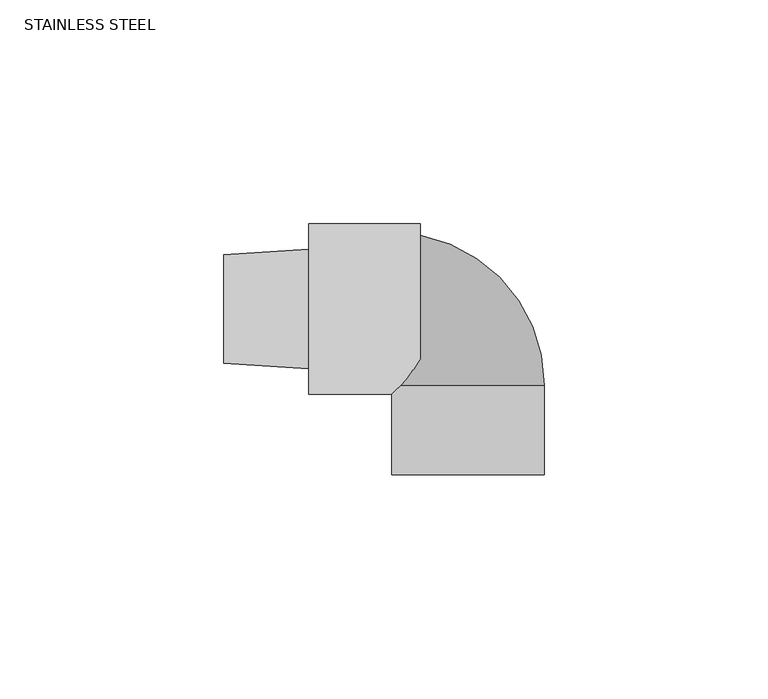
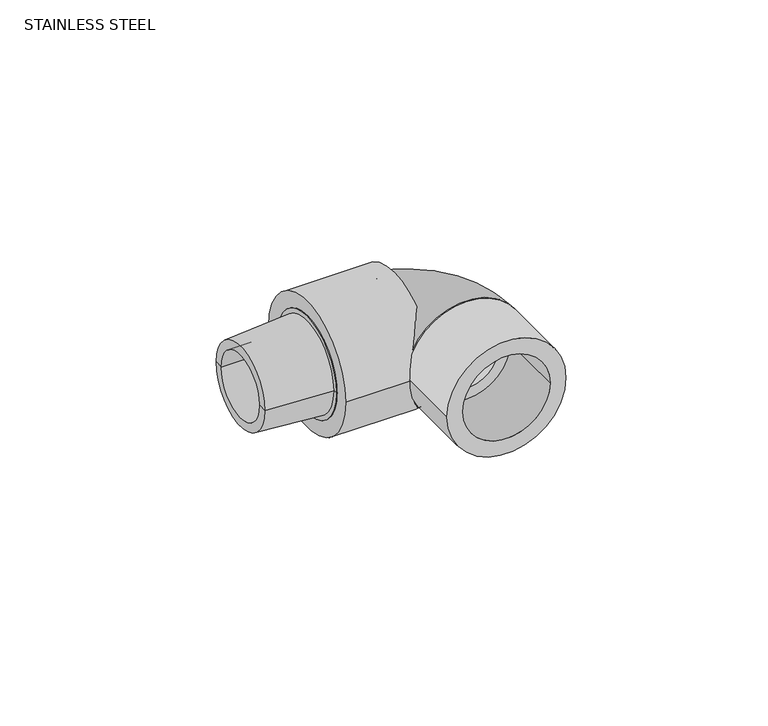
"""IFC4 building model written with IfcOpenShell, lengths in millimetres: valve geometry, Aquatherm - Elbow Transition PPR to M NPT : STAINLESS STEEL."""

import ifcopenshell
import ifcopenshell.guid

model = None  # the IFC model being written
_history = None  # IfcOwnerHistory: only IFC2X3 demands one
_inside = {}  # id of a spatial element -> (the spatial element, [elements in it])
_under = {}  # id of a project, library or spatial element -> (it, [spatial elements below it])
_declared = {}  # id of a project -> (the project, [libraries it declares])
_typed = {}  # id of a type object -> (the type object, [elements of that type])
_made_of = {}  # id of a material, layer set ... -> (it, [elements and type objects made of it])


def new_model(schema):
    """Start an empty IFC model of exactly this schema.

    Asked for "IFC4X3", IfcOpenShell would pick the latest addendum, in which some entities
    have other attributes; the version numbers below select the first issue.
    IFC2X3 requires an IfcOwnerHistory on every rooted entity: one is made here for all.
    """
    global model, _history
    if schema == "IFC4X3":
        model = ifcopenshell.file(schema_version=(4, 3, 0, 0))
    else:
        model = ifcopenshell.file(schema=schema)
    _inside.clear()
    _under.clear()
    _declared.clear()
    _typed.clear()
    _made_of.clear()
    _history = None
    if model.schema == "IFC2X3":
        org = make("IfcOrganization", Name="unknown")
        user = make(
            "IfcPersonAndOrganization",
            ThePerson=make("IfcPerson", FamilyName="unknown"),
            TheOrganization=org,
        )
        app = make(
            "IfcApplication",
            ApplicationDeveloper=org,
            Version="unknown",
            ApplicationFullName="unknown",
            ApplicationIdentifier="unknown",
        )
        _history = make(
            "IfcOwnerHistory",
            OwningUser=user,
            OwningApplication=app,
            ChangeAction="ADDED",
            CreationDate=0,
        )
    return model


def make(cls, **values):
    """One entity of the class cls with the attributes given. An attribute that is None is left unset."""
    return model.create_entity(
        cls, **{name: value for name, value in values.items() if value is not None}
    )


def rooted(cls, **values):
    """An entity with a GlobalId (a new one), such as an element, a storey or a relation."""
    return make(cls, GlobalId=ifcopenshell.guid.new(), OwnerHistory=_history, **values)


def si_unit(unit_type, name, prefix=None):
    """IfcSIUnit, for example si_unit("LENGTHUNIT", "METRE", prefix="MILLI")."""
    return make("IfcSIUnit", UnitType=unit_type, Prefix=prefix, Name=name)


def assignment(units):
    """IfcUnitAssignment: the units of a project."""
    return None if units is None else make("IfcUnitAssignment", Units=units)


def point(xyz):
    """IfcCartesianPoint."""
    return None if xyz is None else make("IfcCartesianPoint", Coordinates=xyz)


def direction(xyz):
    """IfcDirection."""
    return None if xyz is None else make("IfcDirection", DirectionRatios=xyz)


def frame(location, z_axis=None, x_axis=None):
    """IfcAxis2Placement3D, a coordinate frame: its origin and axes. An axis left out is left unset."""
    return make(
        "IfcAxis2Placement3D",
        Location=point(location),
        Axis=direction(z_axis),
        RefDirection=direction(x_axis),
    )


def frame_2d(location, x_axis=None):
    """IfcAxis2Placement2D, a coordinate frame in the plane: its origin and x axis."""
    return make(
        "IfcAxis2Placement2D", Location=point(location), RefDirection=direction(x_axis)
    )


def origin():
    """The frame at (0, 0, 0) with its axes left unset."""
    return frame((0.0, 0.0, 0.0))


def origin_2d():
    """The frame at (0, 0) in the plane with its x axis left unset."""
    return frame_2d((0.0, 0.0))


def place(relative_to, where):
    """IfcLocalPlacement: puts the frame where relative to a parent placement (None: the world)."""
    return make(
        "IfcLocalPlacement", PlacementRelTo=relative_to, RelativePlacement=where
    )


def context(
    kind, dimensions, precision=None, world=None, true_north=None, identifier=None
):
    """IfcGeometricRepresentationContext, for example the 3D "Model" context."""
    return make(
        "IfcGeometricRepresentationContext",
        ContextIdentifier=identifier,
        ContextType=kind,
        CoordinateSpaceDimension=dimensions,
        Precision=precision,
        WorldCoordinateSystem=world,
        TrueNorth=true_north,
    )


def project(units=None, contexts=None):
    """IfcProject with its units and contexts."""
    return rooted(
        "IfcProject",
        Name="project",
        RepresentationContexts=contexts,
        UnitsInContext=assignment(units),
    )


def spatial(cls, under=None, at=None, **own):
    """A site, building, storey or space (cls), placed at a placement, below another one or the project."""
    s = rooted(cls, ObjectPlacement=at, **own)
    if under is not None:
        _under.setdefault(under.id(), (under, []))[1].append(s)
    return s


def polyline(points):
    """IfcPolyline through the points."""
    return make("IfcPolyline", Points=[point(p) for p in points])


def circle_curve(where, radius):
    """IfcCircle in the frame where."""
    return make("IfcCircle", Position=where, Radius=radius)


def ellipse_curve(where, semi_axis1, semi_axis2):
    """IfcEllipse in the frame where."""
    return make(
        "IfcEllipse", Position=where, SemiAxis1=semi_axis1, SemiAxis2=semi_axis2
    )


def trimmed(basis, trim1, trim2, sense, master):
    """IfcTrimmedCurve: the piece of a basis curve between two trims."""
    return make(
        "IfcTrimmedCurve",
        BasisCurve=basis,
        Trim1=trim1,
        Trim2=trim2,
        SenseAgreement=sense,
        MasterRepresentation=master,
    )


def segment(curve, same_sense, transition):
    """IfcCompositeCurveSegment."""
    return make(
        "IfcCompositeCurveSegment",
        Transition=transition,
        SameSense=same_sense,
        ParentCurve=curve,
    )


def composite_curve(segments, self_intersect=None):
    """IfcCompositeCurve: segments joined end to end."""
    return make("IfcCompositeCurve", Segments=segments, SelfIntersect=self_intersect)


def outline(outer, holes=None, kind="AREA"):
    """IfcArbitraryClosedProfileDef: a profile drawn as a closed curve; with holes, ...WithVoids."""
    if holes is None:
        return make("IfcArbitraryClosedProfileDef", ProfileType=kind, OuterCurve=outer)
    return make(
        "IfcArbitraryProfileDefWithVoids",
        ProfileType=kind,
        OuterCurve=outer,
        InnerCurves=holes,
    )


def extrude(swept, where, along, depth):
    """IfcExtrudedAreaSolid: the profile swept, set in the frame where, extruded along a direction by depth."""
    return make(
        "IfcExtrudedAreaSolid",
        SweptArea=swept,
        Position=where,
        ExtrudedDirection=direction(along),
        Depth=depth,
    )


def shape(context_of_items, identifier, shape_type, items):
    """IfcShapeRepresentation: the items that make up one representation, for example the "Body"."""
    return make(
        "IfcShapeRepresentation",
        ContextOfItems=context_of_items,
        RepresentationIdentifier=identifier,
        RepresentationType=shape_type,
        Items=items,
    )


def source(mapping_origin, context_of_items, identifier, shape_type, items):
    """IfcRepresentationMap: a shape defined once, which mapped items show again and again."""
    return make(
        "IfcRepresentationMap",
        MappingOrigin=mapping_origin,
        MappedRepresentation=shape(context_of_items, identifier, shape_type, items),
    )


def transform(
    local_origin,
    x_axis=None,
    y_axis=None,
    z_axis=None,
    scale=None,
    scale2=None,
    scale3=None,
    uniform=True,
):
    """IfcCartesianTransformationOperator3D, or its non-uniform kind. x_axis, y_axis, z_axis: its Axis1, 2, 3."""
    if uniform:
        return make(
            "IfcCartesianTransformationOperator3D",
            Axis1=direction(x_axis),
            Axis2=direction(y_axis),
            LocalOrigin=point(local_origin),
            Scale=scale,
            Axis3=direction(z_axis),
        )
    return make(
        "IfcCartesianTransformationOperator3DnonUniform",
        Axis1=direction(x_axis),
        Axis2=direction(y_axis),
        LocalOrigin=point(local_origin),
        Scale=scale,
        Axis3=direction(z_axis),
        Scale2=scale2,
        Scale3=scale3,
    )


def mapped(mapping_source, mapping_target):
    """IfcMappedItem: shows the shape of a source again, moved by a transform."""
    return make(
        "IfcMappedItem", MappingSource=mapping_source, MappingTarget=mapping_target
    )


def made_of(thing, what):
    """Note that an element or type object is made of a material, layer set ...; save() writes the relation."""
    if what is not None:
        _made_of.setdefault(what.id(), (what, []))[1].append(thing)
    return thing


def element(
    cls,
    number,
    at=None,
    inside=None,
    cuts=None,
    type_object=None,
    material=None,
    context=None,
    identifier="Body",
    shape_type=None,
    held_by="IfcProductDefinitionShape",
    body=None,
    shapes=None,
    **own,
):
    """One element of the class cls, such as IfcWall. Its Tag is "e" and its number.

    at: its placement. inside: the storey or other place that contains it. cuts: it is an
    opening in that element (IfcRelVoidsElement). A single representation is given by context,
    identifier, shape_type and body (its items); several are given by shapes. held_by: the class
    of the entity that holds the representations. save() writes the other relations.
    """
    e = rooted(cls, Tag="e%d" % number, ObjectPlacement=at, **own)
    if body is not None:
        shapes = [shape(context, identifier, shape_type, body)]
    if shapes is not None:
        e.Representation = make(held_by, Representations=shapes)
    if inside is not None:
        _inside.setdefault(inside.id(), (inside, []))[1].append(e)
    if cuts is not None:
        rooted(
            "IfcRelVoidsElement", RelatingBuildingElement=cuts, RelatedOpeningElement=e
        )
    if type_object is not None:
        _typed.setdefault(type_object.id(), (type_object, []))[1].append(e)
    return made_of(e, material)


def aggregate(whole, parts):
    """IfcRelAggregates: a whole, such as a stair, and the parts it consists of."""
    return rooted("IfcRelAggregates", RelatingObject=whole, RelatedObjects=parts)


def save(model, path):
    """Write the relations noted so far, then the file.

    IfcRelAggregates (storeys below a building ...), IfcRelContainedInSpatialStructure (elements
    in a storey), IfcRelDefinesByType, IfcRelAssociatesMaterial and IfcRelDeclares: one each for
    every whole, place, type object, material and project.
    """
    for whole, parts in _under.values():
        aggregate(whole, parts)
    for where, things in _inside.values():
        rooted(
            "IfcRelContainedInSpatialStructure",
            RelatedElements=things,
            RelatingStructure=where,
        )
    for kind, things in _typed.values():
        rooted("IfcRelDefinesByType", RelatedObjects=things, RelatingType=kind)
    for what, things in _made_of.values():
        rooted("IfcRelAssociatesMaterial", RelatedObjects=things, RelatingMaterial=what)
    for by, libraries in _declared.values():
        rooted("IfcRelDeclares", RelatingContext=by, RelatedDefinitions=libraries)
    model.write(path)


def plane_surface(at):
    """IfcPlane: the flat surface through the origin of the frame at, square to its z axis."""
    return make("IfcPlane", Position=at)


def cylinder_surface(at, radius):
    """IfcCylindricalSurface: all points at the distance radius from the z axis of the frame at."""
    return make("IfcCylindricalSurface", Position=at, Radius=radius)


def revolved_surface(curve, axis_point, axis_direction):
    """IfcSurfaceOfRevolution: the curve turned about the line through axis_point along axis_direction."""
    return make(
        "IfcSurfaceOfRevolution",
        SweptCurve=make("IfcArbitraryOpenProfileDef", ProfileType="CURVE", Curve=curve),
        AxisPosition=make("IfcAxis1Placement", Location=point(axis_point), Axis=direction(axis_direction)),
    )


def advanced_brep(points, edges, surfaces, faces):
    """IfcAdvancedBrep: a solid bounded by faces that lie on surfaces and meet in shared edges.

    An edge is (start, end): straight between two places in points (the first is 0);
    or (start, end, curve); or (start, end, curve, False) where it runs against its curve.
    A face is (place in surfaces, loops), or (place, loops, False) where it looks against
    its surface's normal. A loop lists edges by number (the first is 1), with a minus sign
    where the edge is run from its end to its start. The first loop is the outer one.
    """
    corners = [point(p) for p in points]
    vertices = [make("IfcVertexPoint", VertexGeometry=c) for c in corners]
    made = []
    for start, end, *more in edges:
        made.append(
            make(
                "IfcEdgeCurve",
                EdgeStart=vertices[start],
                EdgeEnd=vertices[end],
                EdgeGeometry=more[0] if more else make("IfcPolyline", Points=[corners[start], corners[end]]),
                SameSense=more[1] if len(more) > 1 else True,
            )
        )
    hull = []
    for where, loops, *sense in faces:
        bounds = []
        for j, loop in enumerate(loops):
            ring = [make("IfcOrientedEdge", EdgeElement=made[abs(k) - 1], Orientation=k > 0) for k in loop]
            bounds.append(
                make(
                    "IfcFaceOuterBound" if j == 0 else "IfcFaceBound",
                    Bound=make("IfcEdgeLoop", EdgeList=ring),
                    Orientation=True,
                )
            )
        hull.append(make("IfcAdvancedFace", Bounds=bounds, FaceSurface=surfaces[where], SameSense=sense[0] if sense else True))
    return make("IfcAdvancedBrep", Outer=make("IfcClosedShell", CfsFaces=hull))


def stainless_steel_8619f25a(model_context):
    return source(origin(), model_context, "Body", "SolidModel", [
        advanced_brep(
        [(-16.51, 9.525, 0.0), (-54.61, 9.525, 0.0), (-54.61, -9.525, 0.0), (-16.51, -9.525, 0.0), (-16.51, 14.5851563, 0.0), (-16.51, -14.5851562, 0.0), (-35.56, 14.5851563, 0.0), (-35.56, -14.5851562, 0.0), (-54.61, 12.0943357, 0.0), (-54.61, -12.0943357, 0.0), (-35.56, 13.3100212, 0.0), (-35.56, -13.3100212, 0.0)],
        [
            (0, 1),
            (1, 2, circle_curve(frame((-54.61, 0.0, 0.0), z_axis=(-1.0, 0.0, 0.0), x_axis=(0.0, -1.0, 0.0)), 9.525)),
            (2, 3),
            (3, 0, circle_curve(frame((-16.51, 0.0, 0.0), z_axis=(1.0, 0.0, 0.0), x_axis=(0.0, -1.0, 0.0)), 9.525)),
            (2, 1, circle_curve(frame((-54.61, 0.0, 0.0), z_axis=(-1.0, 0.0, 0.0), x_axis=(0.0, -1.0, 0.0)), 9.525)),
            (0, 3, circle_curve(frame((-16.51, 0.0, 0.0), z_axis=(1.0, 0.0, 0.0), x_axis=(0.0, -1.0, 0.0)), 9.525)),
            (4, 0),
            (3, 5),
            (5, 4, circle_curve(frame((-16.51, 0.0, 0.0), z_axis=(1.0, 0.0, 0.0), x_axis=(0.0, -1.0, 0.0)), 14.5851563)),
            (4, 5, circle_curve(frame((-16.51, 0.0, 0.0), z_axis=(1.0, 0.0, 0.0), x_axis=(0.0, -1.0, 0.0)), 14.5851563)),
            (6, 4),
            (5, 7),
            (7, 6, circle_curve(frame((-35.56, 0.0, 0.0), z_axis=(1.0, 0.0, 0.0), x_axis=(0.0, -1.0, 0.0)), 14.5851563)),
            (6, 7, circle_curve(frame((-35.56, 0.0, 0.0), z_axis=(1.0, 0.0, 0.0), x_axis=(0.0, -1.0, 0.0)), 14.5851563)),
            (1, 8),
            (8, 9, circle_curve(frame((-54.61, 0.0, 0.0), z_axis=(-1.0, 0.0, 0.0), x_axis=(0.0, -1.0, 0.0)), 12.0943357)),
            (9, 2),
            (9, 8, circle_curve(frame((-54.61, 0.0, 0.0), z_axis=(-1.0, 0.0, 0.0), x_axis=(0.0, -1.0, 0.0)), 12.0943357)),
            (10, 6),
            (7, 11),
            (11, 10, circle_curve(frame((-35.56, 0.0, 0.0), z_axis=(1.0, 0.0, 0.0), x_axis=(0.0, -1.0, 0.0)), 13.3100212)),
            (10, 11, circle_curve(frame((-35.56, 0.0, 0.0), z_axis=(1.0, 0.0, 0.0), x_axis=(0.0, -1.0, 0.0)), 13.3100212)),
            (8, 10),
            (11, 9),
        ],
        [
            revolved_surface(polyline([(-54.61, -9.525, 0.0), (-16.509999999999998, -9.525, 0.0)]), (-56.4432251, 0.0, 0.0), (-1.0, 0.0, 0.0)),
            plane_surface(frame((-16.51, 0.0, 0.0), z_axis=(1.0, 0.0, 0.0), x_axis=(0.0, -1.0, 0.0))),
            cylinder_surface(frame((-56.4432251, 0.0, 0.0), z_axis=(-1.0, 0.0, 0.0), x_axis=(0.0, -1.0, 0.0)), 14.5851563),
            plane_surface(frame((-54.61, 0.0, 0.0), z_axis=(-1.0, 0.0, 0.0), x_axis=(0.0, -1.0, 0.0))),
            plane_surface(frame((-35.56, 0.0, 0.0), z_axis=(-1.0, 0.0, 0.0), x_axis=(0.0, -1.0, 0.0))),
            revolved_surface(polyline([(-35.56, -13.3100212, 0.0), (-54.61, -12.0943357, 0.0)]), (-56.4432251, 0.0, 0.0), (-1.0, 0.0, 0.0)),
        ],
        [
            (0, [[1, 2, 3, 4]]),
            (0, [[-3, 5, -1, 6]]),
            (1, [[7, -4, 8, 9]]),
            (1, [[-8, -6, -7, 10]]),
            (2, [[11, -9, 12, 13]]),
            (2, [[-12, -10, -11, 14]]),
            (3, [[15, 16, 17, -2]]),
            (3, [[-17, 18, -15, -5]]),
            (4, [[19, -13, 20, 21]]),
            (4, [[-20, -14, -19, 22]]),
            (5, [[23, -21, 24, -16]]),
            (5, [[-24, -22, -23, -18]]),
        ],
    ),
        advanced_brep(
        [(17.018, -17.018, 0.0), (-17.018, -17.018, 0.0), (9.525, -17.018, 0.0), (-9.525, -17.018, 0.0), (-17.018, 17.018, 0.0), (-17.018, 9.525, 0.0), (-17.018, -9.525, 0.0)],
        [
            (0, 1, circle_curve(frame((0.0, -17.018, 0.0), z_axis=(0.0, -1.0, 0.0), x_axis=(-1.0, 0.0, 0.0)), 17.018)),
            (1, 0, circle_curve(frame((0.0, -17.018, 0.0), z_axis=(0.0, -1.0, 0.0), x_axis=(-1.0, 0.0, 0.0)), 17.018)),
            (2, 3, circle_curve(frame((0.0, -17.018, 0.0), z_axis=(0.0, 1.0, 0.0), x_axis=(-1.0, 0.0, 0.0)), 9.525)),
            (3, 2, circle_curve(frame((0.0, -17.018, 0.0), z_axis=(0.0, 1.0, 0.0), x_axis=(-1.0, 0.0, 0.0)), 9.525)),
            (4, 1, circle_curve(frame((-17.018, 0.0, 0.0), z_axis=(-1.0, 0.0, 0.0), x_axis=(0.0, -1.0, 0.0)), 17.018)),
            (1, 4, circle_curve(frame((-17.018, 0.0, 0.0), z_axis=(-1.0, 0.0, 0.0), x_axis=(0.0, -1.0, 0.0)), 17.018)),
            (5, 6, circle_curve(frame((-17.018, 0.0, 0.0), z_axis=(1.0, 0.0, 0.0), x_axis=(0.0, -1.0, 0.0)), 9.525)),
            (6, 5, circle_curve(frame((-17.018, 0.0, 0.0), z_axis=(1.0, 0.0, 0.0), x_axis=(0.0, -1.0, 0.0)), 9.525)),
            (4, 0, circle_curve(frame((-17.018, -17.018, 0.0), z_axis=(0.0, 0.0, -1.0), x_axis=(1.0, 0.0, 0.0)), 34.036)),
            (5, 2, circle_curve(frame((-17.018, -17.018, 0.0), z_axis=(0.0, 0.0, -1.0), x_axis=(1.0, 0.0, 0.0)), 26.543)),
            (3, 6, circle_curve(frame((-17.018, -17.018, 0.0), z_axis=(0.0, 0.0, 1.0), x_axis=(1.0, 0.0, 0.0)), 7.493)),
        ],
        [
            plane_surface(frame((-17.018, -17.018, 41.9103543), z_axis=(0.0, -1.0, 0.0), x_axis=(1.0, 0.0, 0.0))),
            plane_surface(frame((-17.018, -17.018, 41.9103543), z_axis=(-1.0, 0.0, 0.0), x_axis=(0.0, 1.0, 0.0))),
            revolved_surface(trimmed(ellipse_curve(frame((0.0, -17.018, 0.0), z_axis=(0.0, 1.0, 0.0), x_axis=(-1.0, 0.0, 0.0)), 17.018, 17.018), [point((17.018, -17.018, 0.0))], [point((-17.018, -17.018, 0.0))], True, "CARTESIAN"), (-17.018, -17.018, 41.9103543), (0.0, 0.0, -1.0)),
            revolved_surface(trimmed(ellipse_curve(frame((0.0, -17.018, 0.0), z_axis=(0.0, 1.0, 0.0), x_axis=(-1.0, 0.0, 0.0)), 17.018, 17.018), [point((-17.018, -17.018, 0.0))], [point((17.018, -17.018, 0.0))], True, "CARTESIAN"), (-17.018, -17.018, 41.9103543), (0.0, 0.0, -1.0)),
            revolved_surface(trimmed(ellipse_curve(frame((0.0, -17.018, 0.0), z_axis=(0.0, -1.0, 0.0), x_axis=(-1.0, 0.0, 0.0)), 9.525, 9.525), [point((9.525, -17.018, 0.0))], [point((-9.525, -17.018, 0.0))], True, "CARTESIAN"), (-17.018, -17.018, 41.9103543), (0.0, 0.0, -1.0)),
            revolved_surface(trimmed(ellipse_curve(frame((0.0, -17.018, 0.0), z_axis=(0.0, -1.0, 0.0), x_axis=(-1.0, 0.0, 0.0)), 9.525, 9.525), [point((-9.525, -17.018, 0.0))], [point((9.525, -17.018, 0.0))], True, "CARTESIAN"), (-17.018, -17.018, 41.9103543), (0.0, 0.0, -1.0)),
        ],
        [
            (0, [[1, 2], [3, 4]]),
            (1, [[5, 6], [7, 8]]),
            (2, [[-5, 9, -2]]),
            (3, [[-6, -1, -9]]),
            (4, [[-7, 10, -4, 11]]),
            (5, [[-8, -11, -3, -10]]),
        ],
    ),
        extrude(outline(composite_curve([segment(trimmed(circle_curve(origin_2d(), 17.018), [point((0.0, 17.018))], [point((0.0, -17.018))], False, "CARTESIAN"), True, "CONTINUOUS"), segment(trimmed(circle_curve(origin_2d(), 17.018), [point((0.0, -17.018))], [point((0.0, 17.018))], False, "CARTESIAN"), True, "CONTINUOUS")], self_intersect=False), holes=[composite_curve([segment(trimmed(circle_curve(origin_2d(), 12.446), [point((0.0, 12.446))], [point((0.0, -12.446))], True, "CARTESIAN"), True, "CONTINUOUS"), segment(trimmed(circle_curve(origin_2d(), 12.446), [point((0.0, -12.446))], [point((0.0, 12.446))], True, "CARTESIAN"), True, "CONTINUOUS")], self_intersect=False)]), frame((0.0, -37.084, 0.0), z_axis=(0.0, 1.0, 0.0), x_axis=(0.0, 0.0, 1.0)), (0.0, 0.0, 1.0), 20.066),
        extrude(outline(composite_curve([segment(trimmed(circle_curve(origin_2d(), 19.05), [point((19.05, 0.0))], [point((-19.05, 0.0))], False, "CARTESIAN"), True, "CONTINUOUS"), segment(trimmed(circle_curve(origin_2d(), 19.05), [point((-19.05, 0.0))], [point((19.05, 0.0))], False, "CARTESIAN"), True, "CONTINUOUS")], self_intersect=False), holes=[composite_curve([segment(trimmed(circle_curve(origin_2d(), 14.605), [point((14.605, 0.0))], [point((-14.605, 0.0))], True, "CARTESIAN"), True, "CONTINUOUS"), segment(trimmed(circle_curve(origin_2d(), 14.605), [point((-14.605, 0.0))], [point((14.605, 0.0))], True, "CARTESIAN"), True, "CONTINUOUS")], self_intersect=False)]), frame((-35.56, 0.0, 0.0), z_axis=(1.0, 0.0, 0.0), x_axis=(0.0, 1.0, 0.0)), (0.0, 0.0, 1.0), 24.892),
    ])


if __name__ == "__main__":
    model = new_model("IFC4")
    model_context = context("Model", 3, world=origin())
    ifc_project = project(units=[si_unit("LENGTHUNIT", "METRE", prefix="MILLI")], contexts=[model_context])
    site = spatial("IfcSite", under=ifc_project)
    building = spatial("IfcBuilding", under=site)
    placement = place(None, origin())
    stainless_steel_shape = stainless_steel_8619f25a(model_context)
    element("IfcValve", 1, ObjectType="Aquatherm - Elbow Transition PPR to M NPT : STAINLESS STEEL", at=placement, inside=building, context=model_context, shape_type="MappedRepresentation", body=[
        mapped(stainless_steel_shape, transform((0.0, 0.0, 0.0), x_axis=(1.0, 0.0, 0.0), y_axis=(0.0, 1.0, 0.0), z_axis=(0.0, 0.0, 1.0))),
    ])
    save(model, "model.ifc")
